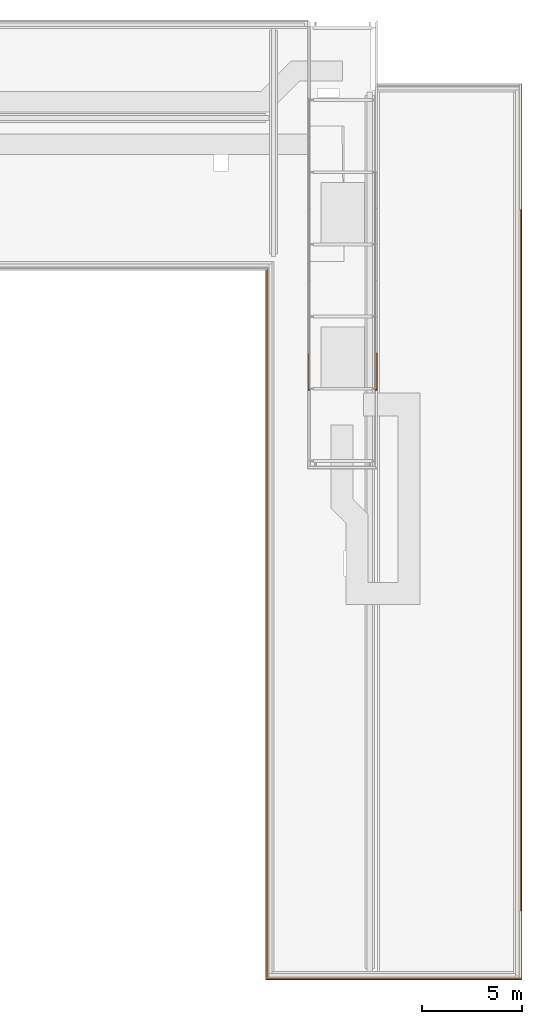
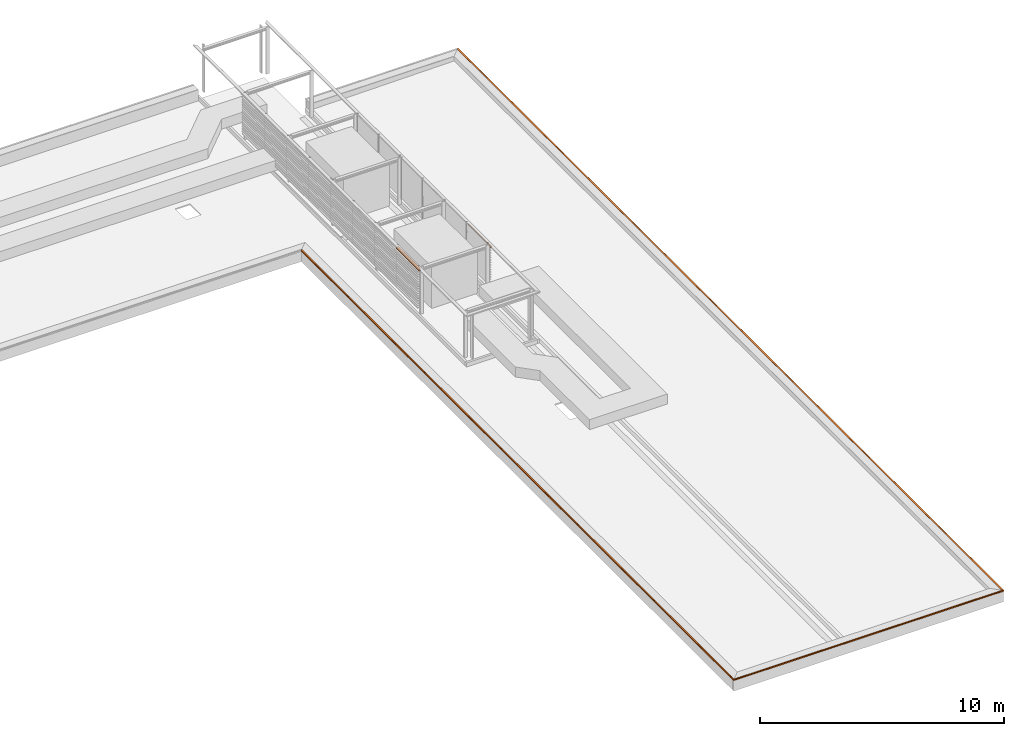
# One storey, part 28 of 32: 5 proxies.
"""IFC2X3 building model written with IfcOpenShell, lengths in millimetres."""

from ifc_helpers import new_model, entity, si_unit, converted_unit, derived_unit, direction, frame, origin, place, context, subcontext, project, spatial, faceted_brep, source, transform, mapped, material, type_object, type_shapes, element, save


model = new_model("IFC2X3")

# Units and contexts
model_context = context("Model", 3, precision=0.01, world=origin(), true_north=direction((6.123031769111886e-17, 1.0)))
body_context = subcontext(model_context, "Body", "Model", "MODEL_VIEW")
ifc_project = project(units=[si_unit("LENGTHUNIT", "METRE", prefix="MILLI"), si_unit("AREAUNIT", "SQUARE_METRE"), si_unit("VOLUMEUNIT", "CUBIC_METRE"), converted_unit("PLANEANGLEUNIT", "DEGREE", entity("IfcRatioMeasure", 0.017453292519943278), si_unit("PLANEANGLEUNIT", "RADIAN"), dimensions=[0, 0, 0, 0, 0, 0, 0]), si_unit("MASSUNIT", "GRAM", prefix="KILO"), derived_unit("MASSDENSITYUNIT", [(si_unit("MASSUNIT", "GRAM", prefix="KILO"), 1), (si_unit("LENGTHUNIT", "METRE"), -3)]), derived_unit("IONCONCENTRATIONUNIT", [(si_unit("MASSUNIT", "GRAM", prefix="KILO"), 1), (si_unit("LENGTHUNIT", "METRE"), -3)]), derived_unit("MOMENTOFINERTIAUNIT", [(si_unit("LENGTHUNIT", "METRE"), 4)]), si_unit("TIMEUNIT", "SECOND"), si_unit("FREQUENCYUNIT", "HERTZ"), si_unit("THERMODYNAMICTEMPERATUREUNIT", "DEGREE_CELSIUS"), derived_unit("THERMALTRANSMITTANCEUNIT", [(si_unit("MASSUNIT", "GRAM", prefix="KILO"), 1), (si_unit("THERMODYNAMICTEMPERATUREUNIT", "KELVIN"), -1), (si_unit("TIMEUNIT", "SECOND"), -3)]), derived_unit("THERMALCONDUCTANCEUNIT", [(si_unit("MASSUNIT", "GRAM", prefix="KILO"), 1), (si_unit("THERMODYNAMICTEMPERATUREUNIT", "KELVIN"), -1), (si_unit("TIMEUNIT", "SECOND"), -3), (si_unit("LENGTHUNIT", "METRE"), 1)]), derived_unit("VOLUMETRICFLOWRATEUNIT", [(si_unit("LENGTHUNIT", "METRE"), 3), (si_unit("TIMEUNIT", "SECOND"), -1)]), derived_unit("MASSFLOWRATEUNIT", [(si_unit("MASSUNIT", "GRAM", prefix="KILO"), 1), (si_unit("TIMEUNIT", "SECOND"), -1)]), derived_unit("ROTATIONALFREQUENCYUNIT", [(si_unit("TIMEUNIT", "SECOND"), -1)]), si_unit("ELECTRICCURRENTUNIT", "AMPERE"), si_unit("ELECTRICVOLTAGEUNIT", "VOLT"), si_unit("POWERUNIT", "WATT"), si_unit("FORCEUNIT", "NEWTON", prefix="KILO"), si_unit("ILLUMINANCEUNIT", "LUX"), si_unit("LUMINOUSFLUXUNIT", "LUMEN"), si_unit("LUMINOUSINTENSITYUNIT", "CANDELA"), derived_unit("USERDEFINED", [(si_unit("MASSUNIT", "GRAM", prefix="KILO"), -1), (si_unit("LENGTHUNIT", "METRE"), -2), (si_unit("TIMEUNIT", "SECOND"), 3), (si_unit("LUMINOUSFLUXUNIT", "LUMEN"), 1)]), derived_unit("USERDEFINED", [(si_unit("MASSUNIT", "GRAM", prefix="KILO"), 1), (si_unit("TIMEUNIT", "SECOND"), -3), (si_unit("LENGTHUNIT", "METRE"), 3), (si_unit("ELECTRICCURRENTUNIT", "AMPERE"), -2)]), derived_unit("SOUNDPOWERUNIT", [(si_unit("MASSUNIT", "GRAM", prefix="KILO"), 1), (si_unit("TIMEUNIT", "SECOND"), -3), (si_unit("LENGTHUNIT", "METRE"), 2)]), derived_unit("SOUNDPRESSUREUNIT", [(si_unit("MASSUNIT", "GRAM", prefix="KILO"), 1), (si_unit("LENGTHUNIT", "METRE"), -1), (si_unit("TIMEUNIT", "SECOND"), -2)]), derived_unit("LINEARVELOCITYUNIT", [(si_unit("LENGTHUNIT", "METRE"), 1), (si_unit("TIMEUNIT", "SECOND"), -1)]), si_unit("PRESSUREUNIT", "PASCAL"), derived_unit("USERDEFINED", [(si_unit("MASSUNIT", "GRAM", prefix="KILO"), 1), (si_unit("LENGTHUNIT", "METRE"), -2), (si_unit("TIMEUNIT", "SECOND"), -2)]), derived_unit("LINEARFORCEUNIT", [(si_unit("MASSUNIT", "GRAM", prefix="KILO"), 1), (si_unit("TIMEUNIT", "SECOND"), -2)]), derived_unit("PLANARFORCEUNIT", [(si_unit("MASSUNIT", "GRAM", prefix="KILO"), 1), (si_unit("LENGTHUNIT", "METRE"), -1), (si_unit("TIMEUNIT", "SECOND"), -2)]), derived_unit("SPECIFICHEATCAPACITYUNIT", [(si_unit("THERMODYNAMICTEMPERATUREUNIT", "KELVIN"), -1), (si_unit("LENGTHUNIT", "METRE"), 2), (si_unit("TIMEUNIT", "SECOND"), -2)]), derived_unit("HEATINGVALUEUNIT", [(si_unit("LENGTHUNIT", "METRE"), 2), (si_unit("TIMEUNIT", "SECOND"), -2)]), derived_unit("VAPORPERMEABILITYUNIT", [(si_unit("LENGTHUNIT", "METRE"), -1), (si_unit("TIMEUNIT", "SECOND"), 1)]), derived_unit("DYNAMICVISCOSITYUNIT", [(si_unit("MASSUNIT", "GRAM", prefix="KILO"), 1), (si_unit("TIMEUNIT", "SECOND"), -1), (si_unit("LENGTHUNIT", "METRE"), -1)]), derived_unit("THERMALEXPANSIONCOEFFICIENTUNIT", [(si_unit("THERMODYNAMICTEMPERATUREUNIT", "KELVIN"), -1)]), derived_unit("MODULUSOFELASTICITYUNIT", [(si_unit("MASSUNIT", "GRAM", prefix="KILO"), 1), (si_unit("LENGTHUNIT", "METRE"), -1), (si_unit("TIMEUNIT", "SECOND"), -2)]), derived_unit("ISOTHERMALMOISTURECAPACITYUNIT", [(si_unit("LENGTHUNIT", "METRE"), 3), (si_unit("MASSUNIT", "GRAM", prefix="KILO"), -1)]), derived_unit("MOISTUREDIFFUSIVITYUNIT", [(si_unit("TIMEUNIT", "SECOND"), -1), (si_unit("LENGTHUNIT", "METRE"), 2)])], contexts=[model_context])

# Site, building, storey
site_placement = place(None, frame((0.0, 300.0, 0.0)))
site = spatial("IfcSite", under=ifc_project, at=site_placement, Name="<Kadastrale nummers>", CompositionType="ELEMENT")
building_placement = place(site_placement, origin())
building = spatial("IfcBuilding", under=site, at=building_placement, CompositionType="ELEMENT")
storey_placement = place(building_placement, frame((0.0, 0.0, 7150.000035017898)))
storey = spatial("IfcBuildingStorey", under=building, at=storey_placement, Name="02 tweede verdieping", CompositionType="ELEMENT", Elevation=7150.000035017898)

# Proxies
ifc_material = material(Name="STAAL_RAL 7006")
building_element_proxy_type_1 = type_object("IfcBuildingElementProxyType", Name="NLRS_42_GM_WPB_dakrand_gen_ISR:dakrand_gen", PredefinedType="NOTDEFINED", material=ifc_material)
shared_shape_1 = source(origin(), body_context, "Body", "Brep", [
    faceted_brep([(17699.0, 1.0, 14.0), (17699.781831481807, 0.2181685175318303, 13.62348980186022), (17700.0, 0.0, 13.0), (17700.0, 0.0, -39.696774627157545), (17699.524976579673, 0.47502341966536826, -40.54789129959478), (17698.741180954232, 1.2588190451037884, -40.66270045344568), (17688.747914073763, 11.25208592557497, -37.98501266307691), (17688.040807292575, 11.959192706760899, -36.76026779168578), (17689.265552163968, 10.734447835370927, -36.05316101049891), (17696.741180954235, 3.2588190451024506, -38.05624970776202), (17697.686241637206, 2.313758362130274, -37.817697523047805), (17698.0, 2.0, -37.0903238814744), (17698.0, 2.0, -28.0), (17697.623489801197, 2.3765101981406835, -27.218168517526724), (17697.0, 3.0, -27.0), (17694.0, 6.0, -27.0), (17693.21816851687, 6.781831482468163, -26.62348980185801), (17693.0, 7.0, -26.0), (17693.0, 7.0, -23.0), (17694.104528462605, 5.895471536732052, -22.005478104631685), (17695.0, 5.0, -23.0), (17695.0, 5.0, -24.0), (17695.37651019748, 4.623489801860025, -24.781831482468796), (17696.0, 4.0, -25.0), (17697.0, 3.0, -25.0), (17697.781831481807, 2.2181685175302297, -24.623489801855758), (17698.0, 2.0, -24.0), (17698.0, 2.0, -1.0), (17697.623489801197, 2.3765101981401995, -0.21816851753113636), (17697.0, 3.0, 0.0), (17696.0, 4.0, 0.0), (17695.21816851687, 4.781831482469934, -0.37651019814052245), (17695.0, 5.0, -1.0), (17695.0, 5.0, -2.0), (17693.89547153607, 6.104528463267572, -2.9945218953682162), (17693.0, 7.0, -2.0), (17693.0, 7.0, -1.0), (17692.623489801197, 7.376510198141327, -0.21816851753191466), (17692.0, 8.0, 0.0), (17630.0, 70.0, 0.0), (17629.49999999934, 70.49999999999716, 0.4999999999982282), (17630.0, 70.0, 1.0), (17634.499999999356, 65.49999999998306, 2.0), (17697.0, 3.0, 2.0), (17697.781831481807, 2.2181685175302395, 2.3765101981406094), (17698.0, 2.0, 3.0), (17698.0, 2.0, 11.0), (17697.623489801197, 2.376510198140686, 11.78183148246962), (17697.0, 3.0, 12.0), (17689.0, 11.0, 12.0), (17688.0, 12.0, 13.0), (17689.0, 11.0, 14.0), (-17702.218168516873, 2.218168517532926, 2.3765101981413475), (-17702.0, 2.0, 3.0), (-17703.0, 3.0, 2.0), (-17702.376510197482, 2.3765101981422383, 11.781831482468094), (-17703.0, 3.0, 12.0), (-17702.0, 2.0, 11.0), (-17712.0, 12.0, 13.0), (-17711.0, 11.0, 14.0), (-17711.0, 11.0, 12.0), (-17700.218168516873, 0.21816851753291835, 13.623489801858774), (-17700.0, 0.0, 13.0), (-17701.0, 1.0, 14.0), (-17701.258819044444, 1.25881904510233, -40.662700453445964), (-17700.475023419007, 0.4750234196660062, -40.54789129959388), (-17700.0, 0.0, -39.696774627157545), (-17711.959192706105, 11.959192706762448, -36.76026779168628), (-17710.73444783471, 10.734447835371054, -36.05316101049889), (-17711.252085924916, 11.252085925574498, -37.985012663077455), (-17702.31375836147, 2.313758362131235, -37.81769752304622), (-17702.0, 2.0, -37.090323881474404), (-17703.25881904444, 3.2588190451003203, -38.056249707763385), (-17702.376510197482, 2.3765101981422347, -27.21816851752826), (-17703.0, 3.0, -27.0), (-17702.0, 2.0, -28.0), (-17765.499999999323, 65.49999999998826, 2.0), (-17770.0, 70.0, 1.0), (-17770.499999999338, 70.49999999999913, 0.4999999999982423), (-17770.0, 70.0, 0.0), (-17708.0, 8.0, 0.0), (-17703.0, 3.0, 0.0), (-17704.0, 4.0, 0.0), (-17707.376510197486, 7.3765101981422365, -0.2181685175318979), (-17707.0, 7.0, -1.0), (-17707.0, 7.0, -2.0), (-17707.0, 7.0, -26.0), (-17707.0, 7.0, -23.0), (-17706.10452846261, 6.104528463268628, -2.9945218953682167), (-17705.0, 5.0, -2.0), (-17705.0, 5.0, -1.0), (-17705.0, 5.0, -23.0), (-17705.0, 5.0, -24.0), (-17704.78183148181, 4.7818314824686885, -0.37651019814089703), (-17702.376510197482, 2.3765101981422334, -0.21816851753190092), (-17702.0, 2.0, -1.0), (-17702.0, 2.0, -24.0), (-17702.218168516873, 2.218168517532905, -24.62348980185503), (-17703.0, 3.0, -25.0), (-17704.0, 4.0, -25.0), (-17704.6234898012, 4.623489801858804, -24.781831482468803), (-17705.895471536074, 5.895471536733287, -22.00547810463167), (-17706.78183148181, 6.781831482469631, -26.62348980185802), (-17706.0, 6.0, -27.0)], [[[0, 1, 2, 3, 4, 5, 6, 7, 8, 9, 10, 11, 12, 13, 14, 15, 16, 17, 18, 19, 20, 21, 22, 23, 24, 25, 26, 27, 28, 29, 30, 31, 32, 33, 34, 35, 36, 37, 38, 39, 40, 41, 42, 43, 44, 45, 46, 47, 48, 49, 50, 51]], [[44, 52, 53, 45]], [[44, 43, 54, 52]], [[48, 47, 55, 56]], [[46, 57, 55, 47]], [[58, 59, 51, 50]], [[50, 49, 60, 58]], [[61, 62, 2, 1]], [[0, 63, 61, 1]], [[64, 5, 4, 65]], [[4, 3, 66, 65]], [[67, 68, 8, 7]], [[7, 6, 69, 67]], [[10, 70, 71, 11]], [[10, 9, 72, 70]], [[14, 13, 73, 74]], [[12, 75, 73, 13]], [[76, 54, 43, 42]], [[77, 76, 42, 41]], [[78, 77, 41, 40]], [[40, 39, 79, 78]], [[80, 79, 39, 38]], [[81, 82, 30, 29]], [[38, 37, 83, 80]], [[36, 84, 83, 37]], [[85, 84, 36, 35]], [[86, 87, 18, 17]], [[85, 35, 34, 88]], [[34, 33, 89, 88]], [[90, 89, 33, 32]], [[91, 92, 21, 20]], [[32, 31, 93, 90]], [[30, 82, 93, 31]], [[29, 28, 94, 81]], [[27, 95, 94, 28]], [[96, 95, 27, 26]], [[71, 75, 12, 11]], [[53, 57, 46, 45]], [[25, 97, 96, 26]], [[25, 24, 98, 97]], [[99, 98, 24, 23]], [[22, 100, 99, 23]], [[22, 21, 92, 100]], [[101, 91, 20, 19]], [[18, 87, 101, 19]], [[86, 17, 16, 102]], [[16, 15, 103, 102]], [[74, 103, 15, 14]], [[68, 72, 9, 8]], [[64, 69, 6, 5]], [[62, 66, 3, 2]], [[59, 63, 0, 51]], [[56, 60, 49, 48]], [[62, 61, 63, 59, 58, 60, 56, 55, 57, 53, 52, 54, 76, 77, 78, 79, 80, 83, 84, 85, 88, 89, 90, 93, 82, 81, 94, 95, 96, 97, 98, 99, 100, 92, 91, 101, 87, 86, 102, 103, 74, 73, 75, 71, 70, 72, 68, 67, 69, 64, 65, 66]]]),
])
type_shapes(building_element_proxy_type_1, [shared_shape_1])
proxy_1_placement = place(storey_placement, frame((36208.0, 20008.0, 567.9999649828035), z_axis=(0.0, 0.0, 1.0), x_axis=(0.0, -1.0, 0.0)))
element("IfcBuildingElementProxy", 1, at=proxy_1_placement, inside=storey, type_object=building_element_proxy_type_1, material=ifc_material, Name="NLRS_42_GM_WPB_dakrand_gen_ISR:dakrand_gen", ObjectType="NLRS_42_GM_WPB_dakrand_gen_ISR:dakrand_gen", context=body_context, shape_type="MappedRepresentation", body=[
    mapped(shared_shape_1, transform((0.0, 0.0, 0.0), scale=1.0)),
])
building_element_proxy_type_2 = type_object("IfcBuildingElementProxyType", Name="NLRS_42_GM_WPB_dakrand_gen_ISR:dakrand_gen", PredefinedType="NOTDEFINED", material=ifc_material)
shared_shape_2 = source(origin(), body_context, "Body", "Brep", [
    faceted_brep([(6391.0, 1.0, 14.0), (6391.781831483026, 0.21816851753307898, 13.623489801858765), (6392.0, 0.0, 13.0), (6392.0, 0.0, -39.696774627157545), (6391.524976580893, 0.4750234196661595, -40.54789129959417), (6390.741180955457, 1.2588190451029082, -40.66270045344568), (6380.747914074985, 11.252085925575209, -37.98501266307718), (6380.040807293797, 11.959192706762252, -36.76026779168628), (6381.265552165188, 10.734447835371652, -36.05316101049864), (6388.741180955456, 3.2588190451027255, -38.05624970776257), (6389.686241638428, 2.3137583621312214, -37.817697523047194), (6390.0, 2.0, -37.0903238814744), (6390.0, 2.0, -28.0), (6389.623489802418, 2.3765101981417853, -27.218168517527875), (6389.0, 3.0, -27.0), (6386.0, 6.0, -27.0), (6385.218168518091, 6.781831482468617, -26.623489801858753), (6385.0, 7.0, -26.0), (6385.0, 7.0, -23.0), (6386.104528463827, 5.8954715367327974, -22.005478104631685), (6387.0, 5.0, -23.0), (6387.0, 5.0, -24.0), (6387.3765101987, 4.623489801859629, -24.781831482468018), (6388.0, 4.0, -25.0), (6389.0, 3.0, -25.0), (6389.781831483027, 2.2181685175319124, -24.623489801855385), (6390.0, 2.0, -24.0), (6390.0, 2.0, -1.0), (6389.623489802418, 2.3765101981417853, -0.2181685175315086), (6389.0, 3.0, 0.0), (6388.0, 4.0, 0.0), (6387.21816851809, 4.781831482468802, -0.3765101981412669), (6387.0, 5.0, -1.0), (6387.0, 5.0, -2.0), (6385.895471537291, 6.104528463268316, -2.9945218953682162), (6385.0, 7.0, -2.0), (6385.0, 7.0, -1.0), (6384.623489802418, 7.376510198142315, -0.2181685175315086), (6384.0, 8.0, 0.0), (6322.0, 70.0, 0.0), (6321.500000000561, 70.49999999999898, 0.4999999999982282), (6322.0, 70.0, 1.0), (6326.500000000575, 65.4999999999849, 2.0), (6389.0, 3.0, 2.0), (6389.7818314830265, 2.218168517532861, 2.3765101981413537), (6390.0, 2.0, 3.0), (6390.0, 2.0, 11.0), (6389.623489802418, 2.376510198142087, 11.781831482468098), (6389.0, 3.0, 12.0), (6381.0, 11.0, 12.0), (6380.0, 12.0, 13.0), (6381.0, 11.0, 14.0), (-6389.781831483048, 2.2181685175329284, 2.376510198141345), (-6390.0, 2.0, 3.0), (-6389.0, 3.0, 2.0), (-6389.623489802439, 2.3765101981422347, 11.781831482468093), (-6389.0, 3.0, 12.0), (-6390.0, 2.0, 11.0), (-6381.0, 11.0, 14.0), (-6380.0, 12.0, 13.0), (-6381.0, 11.0, 12.0), (-6392.0, 0.0, 13.0), (-6391.781831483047, 0.21816851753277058, 13.62348980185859), (-6391.0, 1.0, 14.0), (-6390.741180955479, 1.2588190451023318, -40.662700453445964), (-6391.524976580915, 0.47502341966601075, -40.54789129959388), (-6392.0, 0.0, -39.69677462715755), (-6381.26555216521, 10.734447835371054, -36.05316101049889), (-6380.040807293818, 11.959192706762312, -36.76026779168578), (-6380.747914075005, 11.252085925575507, -37.985012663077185), (-6389.686241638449, 2.313758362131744, -37.8176975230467), (-6390.0, 2.0, -37.090323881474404), (-6388.74118095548, 3.2588190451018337, -38.05624970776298), (-6389.623489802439, 2.37651019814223, -27.218168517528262), (-6389.0, 3.0, -27.0), (-6390.0, 2.0, -28.0), (-6326.5000000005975, 65.49999999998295, 2.0), (-6322.0, 70.0, 1.0), (-6321.500000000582, 70.49999999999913, 0.4999999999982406), (-6322.0, 70.0, 0.0), (-6384.0, 8.0, 0.0), (-6389.0, 3.0, 0.0), (-6388.0, 4.0, 0.0), (-6384.623489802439, 7.376510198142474, -0.218168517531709), (-6385.0, 7.0, -1.0), (-6385.0, 7.0, -2.0), (-6385.0, 7.0, -26.0), (-6385.0, 7.0, -23.0), (-6385.895471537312, 6.1045284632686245, -2.994521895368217), (-6387.0, 5.0, -2.0), (-6387.0, 5.0, -1.0), (-6387.0, 5.0, -23.0), (-6387.0, 5.0, -24.0), (-6387.218168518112, 4.781831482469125, -0.3765101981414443), (-6389.623489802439, 2.376510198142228, -0.21816851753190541), (-6390.0, 2.0, -1.0), (-6390.0, 2.0, -24.0), (-6389.781831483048, 2.2181685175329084, -24.623489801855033), (-6389.0, 3.0, -25.0), (-6388.0, 4.0, -25.0), (-6387.376510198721, 4.62348980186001, -24.78183148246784), (-6386.104528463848, 5.895471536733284, -22.00547810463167), (-6385.218168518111, 6.781831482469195, -26.623489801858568), (-6386.0, 6.0, -27.0)], [[[0, 1, 2, 3, 4, 5, 6, 7, 8, 9, 10, 11, 12, 13, 14, 15, 16, 17, 18, 19, 20, 21, 22, 23, 24, 25, 26, 27, 28, 29, 30, 31, 32, 33, 34, 35, 36, 37, 38, 39, 40, 41, 42, 43, 44, 45, 46, 47, 48, 49, 50, 51]], [[45, 44, 52, 53]], [[43, 54, 52, 44]], [[48, 47, 55, 56]], [[46, 57, 55, 47]], [[58, 51, 50, 59]], [[50, 49, 60, 59]], [[61, 2, 1, 62]], [[1, 0, 63, 62]], [[64, 5, 4, 65]], [[4, 3, 66, 65]], [[67, 8, 7, 68]], [[7, 6, 69, 68]], [[11, 10, 70, 71]], [[9, 72, 70, 10]], [[14, 13, 73, 74]], [[12, 75, 73, 13]], [[76, 54, 43, 42]], [[77, 76, 42, 41]], [[77, 41, 40, 78]], [[40, 39, 79, 78]], [[80, 79, 39, 38]], [[81, 82, 30, 29]], [[38, 37, 83, 80]], [[36, 84, 83, 37]], [[85, 84, 36, 35]], [[86, 87, 18, 17]], [[85, 35, 34, 88]], [[34, 33, 89, 88]], [[90, 89, 33, 32]], [[91, 92, 21, 20]], [[32, 31, 93, 90]], [[30, 82, 93, 31]], [[29, 28, 94, 81]], [[27, 95, 94, 28]], [[96, 95, 27, 26]], [[71, 75, 12, 11]], [[53, 57, 46, 45]], [[26, 25, 97, 96]], [[24, 98, 97, 25]], [[99, 98, 24, 23]], [[23, 22, 100, 99]], [[21, 92, 100, 22]], [[91, 20, 19, 101]], [[19, 18, 87, 101]], [[86, 17, 16, 102]], [[16, 15, 103, 102]], [[74, 103, 15, 14]], [[67, 72, 9, 8]], [[64, 69, 6, 5]], [[61, 66, 3, 2]], [[58, 63, 0, 51]], [[56, 60, 49, 48]], [[61, 62, 63, 58, 59, 60, 56, 55, 57, 53, 52, 54, 76, 77, 78, 79, 80, 83, 84, 85, 88, 89, 90, 93, 82, 81, 94, 95, 96, 97, 98, 99, 100, 92, 91, 101, 87, 86, 102, 103, 74, 73, 75, 71, 70, 72, 67, 68, 69, 64, 65, 66]]]),
])
type_shapes(building_element_proxy_type_2, [shared_shape_2])
proxy_2_placement = place(storey_placement, frame((42600.0, 2308.0, 567.9999649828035)))
element("IfcBuildingElementProxy", 2, at=proxy_2_placement, inside=storey, type_object=building_element_proxy_type_2, material=ifc_material, Name="NLRS_42_GM_WPB_dakrand_gen_ISR:dakrand_gen", ObjectType="NLRS_42_GM_WPB_dakrand_gen_ISR:dakrand_gen", context=body_context, shape_type="MappedRepresentation", body=[
    mapped(shared_shape_2, transform((0.0, 0.0, 0.0), scale=1.0)),
])
building_element_proxy_type_3 = type_object("IfcBuildingElementProxyType", Name="NLRS_42_GM_WPB_dakrand_gen_ISR:dakrand_gen", PredefinedType="NOTDEFINED", material=ifc_material)
shared_shape_3 = source(origin(), body_context, "Body", "Brep", [
    faceted_brep([(22353.50000000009, 1.0, 14.0), (22354.281831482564, 0.21816851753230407, 13.62348980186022), (22354.500000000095, 0.0, 13.0), (22354.500000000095, 0.0, -39.696774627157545), (22354.02497658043, 0.4750234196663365, -40.547891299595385), (22353.24118095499, 1.2588190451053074, -40.66270045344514), (22343.24791407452, 11.252085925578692, -37.98501266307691), (22342.54080729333, 11.959192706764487, -36.76026779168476), (22343.765552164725, 10.734447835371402, -36.05316101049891), (22351.241180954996, 3.2588190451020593, -38.05624970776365), (22352.18624163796, 2.3137583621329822, -37.81769752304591), (22352.500000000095, 2.0, -37.0903238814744), (22352.50000000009, 2.0, -28.0), (22352.123489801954, 2.3765101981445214, -27.21816851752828), (22351.50000000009, 3.0, -27.0), (22348.50000000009, 6.0, -27.0), (22347.718168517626, 6.781831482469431, -26.623489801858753), (22347.500000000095, 7.0, -26.0), (22347.50000000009, 7.0, -23.0), (22348.60452846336, 5.895471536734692, -22.005478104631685), (22349.500000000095, 5.0, -23.0), (22349.50000000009, 5.0, -24.0), (22349.87651019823, 4.6234898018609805, -24.781831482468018), (22350.50000000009, 4.0, -25.0), (22351.50000000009, 3.0, -25.0), (22352.28183148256, 2.218168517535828, -24.623489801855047), (22352.500000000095, 2.0, -24.0), (22352.50000000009, 2.0, -1.0), (22352.123489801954, 2.3765101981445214, -0.21816851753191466), (22351.50000000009, 3.0, 0.0), (22350.50000000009, 4.0, 0.0), (22349.718168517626, 4.781831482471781, -0.3765101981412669), (22349.500000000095, 5.0, -1.0), (22349.50000000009, 5.0, -2.0), (22348.395471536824, 6.104528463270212, -2.9945218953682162), (22347.500000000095, 7.0, -2.0), (22347.50000000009, 7.0, -1.0), (22347.12348980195, 7.376510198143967, -0.21816851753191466), (22346.50000000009, 8.0, 0.0), (22284.5000000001, 70.0, 0.0), (22284.0, 70.4999999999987, 0.4999999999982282), (22284.5000000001, 70.0, 1.0), (22289.0, 65.49999999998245, 2.0), (22351.50000000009, 3.0, 2.0), (22352.28183148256, 2.218168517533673, 2.3765101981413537), (22352.500000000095, 2.0, 3.0), (22352.50000000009, 2.0, 11.0), (22352.123489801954, 2.3765101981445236, 11.781831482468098), (22351.50000000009, 3.0, 12.0), (22343.50000000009, 11.0, 12.0), (22342.50000000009, 12.0, 13.0), (22343.5000000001, 11.0, 14.0), (-22352.28183148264, 2.21816851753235, 2.37651019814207), (-22352.500000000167, 2.0, 3.0), (-22351.50000000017, 3.0, 2.0), (-22352.123489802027, 2.3765101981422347, 11.781831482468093), (-22351.500000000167, 3.0, 12.0), (-22352.500000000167, 2.0, 11.0), (-22342.50000000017, 12.0, 13.0), (-22343.50000000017, 11.0, 14.0), (-22343.50000000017, 11.0, 12.0), (-22354.28183148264, 0.21816851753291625, 13.62348980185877), (-22354.500000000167, 0.0, 13.0), (-22353.500000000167, 1.0, 14.0), (-22354.024976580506, 0.4750234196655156, -40.54789129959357), (-22353.24118095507, 1.258819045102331, -40.662700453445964), (-22354.500000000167, 0.0, -39.69677462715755), (-22342.540807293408, 11.959192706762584, -36.76026779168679), (-22343.765552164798, 10.734447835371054, -36.05316101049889), (-22343.247914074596, 11.252085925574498, -37.985012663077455), (-22352.18624163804, 2.313758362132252, -37.81769752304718), (-22352.500000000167, 2.0, -37.090323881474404), (-22351.241180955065, 3.2588190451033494, -38.056249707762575), (-22352.123489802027, 2.37651019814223, -27.218168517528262), (-22351.500000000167, 3.0, -27.0), (-22352.500000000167, 2.0, -28.0), (-22289.0, 65.49999999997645, 2.0), (-22284.500000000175, 70.0, 1.0), (-22284.0, 70.49999999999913, 0.49999999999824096), (-22284.50000000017, 70.0, 0.0), (-22346.500000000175, 8.0, 0.0), (-22351.50000000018, 3.0, 0.0), (-22350.500000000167, 4.0, 0.0), (-22347.123489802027, 7.376510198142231, -0.21816851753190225), (-22347.50000000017, 7.0, -1.0), (-22347.50000000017, 7.0, -2.0), (-22347.50000000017, 7.0, -26.0), (-22347.50000000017, 7.0, -23.0), (-22348.3954715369, 6.1045284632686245, -2.994521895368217), (-22349.500000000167, 5.0, -2.0), (-22349.500000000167, 5.0, -1.0), (-22349.500000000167, 5.0, -23.0), (-22349.500000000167, 5.0, -24.0), (-22349.718168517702, 4.781831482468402, -0.3765101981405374), (-22352.123489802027, 2.3765101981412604, -0.21816851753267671), (-22352.500000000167, 2.0, -1.0), (-22352.500000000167, 2.0, -24.0), (-22352.28183148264, 2.218168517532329, -24.623489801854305), (-22351.50000000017, 3.0, -25.0), (-22350.50000000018, 4.0, -25.0), (-22349.87651019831, 4.623489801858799, -24.781831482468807), (-22348.60452846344, 5.895471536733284, -22.00547810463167), (-22347.718168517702, 6.781831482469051, -26.62348980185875), (-22348.500000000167, 6.0, -27.0)], [[[0, 1, 2, 3, 4, 5, 6, 7, 8, 9, 10, 11, 12, 13, 14, 15, 16, 17, 18, 19, 20, 21, 22, 23, 24, 25, 26, 27, 28, 29, 30, 31, 32, 33, 34, 35, 36, 37, 38, 39, 40, 41, 42, 43, 44, 45, 46, 47, 48, 49, 50, 51]], [[44, 52, 53, 45]], [[43, 54, 52, 44]], [[47, 55, 56, 48]], [[46, 57, 55, 47]], [[58, 59, 51, 50]], [[50, 49, 60, 58]], [[61, 62, 2, 1]], [[1, 0, 63, 61]], [[64, 65, 5, 4]], [[4, 3, 66, 64]], [[67, 68, 8, 7]], [[7, 6, 69, 67]], [[10, 70, 71, 11]], [[9, 72, 70, 10]], [[13, 73, 74, 14]], [[12, 75, 73, 13]], [[76, 54, 43, 42]], [[77, 76, 42, 41]], [[78, 77, 41, 40]], [[39, 79, 78, 40]], [[80, 79, 39, 38]], [[81, 82, 30, 29]], [[37, 83, 80, 38]], [[36, 84, 83, 37]], [[85, 84, 36, 35]], [[86, 87, 18, 17]], [[88, 85, 35, 34]], [[33, 89, 88, 34]], [[90, 89, 33, 32]], [[91, 92, 21, 20]], [[31, 93, 90, 32]], [[30, 82, 93, 31]], [[28, 94, 81, 29]], [[27, 95, 94, 28]], [[96, 95, 27, 26]], [[71, 75, 12, 11]], [[53, 57, 46, 45]], [[25, 97, 96, 26]], [[24, 98, 97, 25]], [[99, 98, 24, 23]], [[22, 100, 99, 23]], [[21, 92, 100, 22]], [[101, 91, 20, 19]], [[18, 87, 101, 19]], [[102, 86, 17, 16]], [[16, 15, 103, 102]], [[74, 103, 15, 14]], [[68, 72, 9, 8]], [[65, 69, 6, 5]], [[62, 66, 3, 2]], [[59, 63, 0, 51]], [[56, 60, 49, 48]], [[62, 61, 63, 59, 58, 60, 56, 55, 57, 53, 52, 54, 76, 77, 78, 79, 80, 83, 84, 85, 88, 89, 90, 93, 82, 81, 94, 95, 96, 97, 98, 99, 100, 92, 91, 101, 87, 86, 102, 103, 74, 73, 75, 71, 70, 72, 68, 67, 69, 65, 64, 66]]]),
])
type_shapes(building_element_proxy_type_3, [shared_shape_3])
proxy_3_placement = place(storey_placement, frame((48992.0, 24662.49999999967, 567.9999649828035), z_axis=(0.0, 0.0, 1.0), x_axis=(0.0, 1.0, 0.0)))
element("IfcBuildingElementProxy", 3, at=proxy_3_placement, inside=storey, type_object=building_element_proxy_type_3, material=ifc_material, Name="NLRS_42_GM_WPB_dakrand_gen_ISR:dakrand_gen", ObjectType="NLRS_42_GM_WPB_dakrand_gen_ISR:dakrand_gen", context=body_context, shape_type="MappedRepresentation", body=[
    mapped(shared_shape_3, transform((0.0, 0.0, 0.0), scale=1.0)),
])
building_element_proxy_type_4 = type_object("IfcBuildingElementProxyType", Name="6286648", PredefinedType="NOTDEFINED")
proxy_4_placement = place(storey_placement, frame((41677.0, 31715.0, 2420.0)))
element("IfcBuildingElementProxy", 4, at=proxy_4_placement, inside=storey, type_object=building_element_proxy_type_4, Name="6286648", context=body_context, shape_type="Brep", body=[
    faceted_brep([(91.0, 1887.5000001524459, 40.0), (91.0, 1887.5000001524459, 0.0), (89.0, 1887.5000001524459, 1.3490170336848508), (89.0, 1887.5000001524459, 38.725859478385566), (1.0, 1887.5000001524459, 79.7609333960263), (1.0, 1887.5000001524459, 120.0), (3.0, 1887.5000001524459, 120.0), (3.0, 1887.5000001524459, 81.03507391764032), (3.0, 88.0, 81.03507391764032), (91.0, 0.0, 40.0), (3.0, 88.0, 120.0), (1.0, 90.0, 120.0), (1.0, 90.0, 79.7609333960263), (89.0, 2.0, 38.725859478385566), (89.0, 2.0, 1.3490170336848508), (91.0, 0.0, 0.0), (0.0, 0.0, 40.0), (0.0, 88.0, 81.0350739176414), (0.0, 88.0, 120.0), (0.0, 90.0, 120.0), (0.0, 90.0, 79.76093339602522), (0.0, 2.0, 38.72585947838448), (0.0, 2.0, 1.3490170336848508), (0.0, 0.0, 0.0)], [[[0, 1, 2, 3, 4, 5, 6, 7]], [[0, 7, 8, 9]], [[7, 6, 10, 8]], [[6, 5, 11, 10]], [[5, 4, 12, 11]], [[4, 3, 13, 12]], [[3, 2, 14, 13]], [[2, 1, 15, 14]], [[1, 0, 9, 15]], [[16, 17, 18, 19, 20, 21, 22, 23]], [[15, 9, 16, 23]], [[14, 15, 23, 22]], [[13, 14, 22, 21]], [[12, 13, 21, 20]], [[11, 12, 20, 19]], [[10, 11, 19, 18]], [[8, 10, 18, 17]], [[9, 8, 17, 16]]]),
])
building_element_proxy_type_5 = type_object("IfcBuildingElementProxyType", Name="6287339", PredefinedType="NOTDEFINED")
proxy_5_placement = place(storey_placement, frame((38322.0, 31715.0, 2420.0)))
element("IfcBuildingElementProxy", 5, at=proxy_5_placement, inside=storey, type_object=building_element_proxy_type_5, Name="6287339", context=body_context, shape_type="Brep", body=[
    faceted_brep([(0.0, 1887.5000001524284, 40.0), (88.0, 1887.5000001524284, 81.0350739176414), (88.0, 1887.5000001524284, 120.0), (90.0, 1887.5000001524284, 120.0), (90.0, 1887.5000001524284, 79.76093339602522), (2.0, 1887.5000001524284, 38.72585947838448), (2.0, 1887.5000001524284, 1.3490170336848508), (0.0, 1887.5000001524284, 0.0), (0.0, 0.0, 40.0), (88.0, 88.0, 81.0350739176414), (88.0, 88.0, 120.0), (90.0, 90.0, 120.0), (90.0, 90.0, 79.76093339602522), (2.0, 2.0, 38.72585947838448), (2.0, 2.0, 1.3490170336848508), (0.0, 0.0, 0.0), (91.0, 0.0, 40.0), (91.0, 0.0, 0.0), (91.0, 2.0, 1.3490170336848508), (91.0, 2.0, 38.725859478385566), (91.0, 90.0, 79.7609333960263), (91.0, 90.0, 120.0), (91.0, 88.0, 120.0), (91.0, 88.0, 81.03507391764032)], [[[0, 1, 2, 3, 4, 5, 6, 7]], [[1, 0, 8, 9]], [[2, 1, 9, 10]], [[3, 2, 10, 11]], [[4, 3, 11, 12]], [[5, 4, 12, 13]], [[6, 5, 13, 14]], [[7, 6, 14, 15]], [[0, 7, 15, 8]], [[16, 17, 18, 19, 20, 21, 22, 23]], [[8, 15, 17, 16]], [[15, 14, 18, 17]], [[14, 13, 19, 18]], [[13, 12, 20, 19]], [[12, 11, 21, 20]], [[11, 10, 22, 21]], [[10, 9, 23, 22]], [[9, 8, 16, 23]]]),
])

save(model, "model.ifc")
